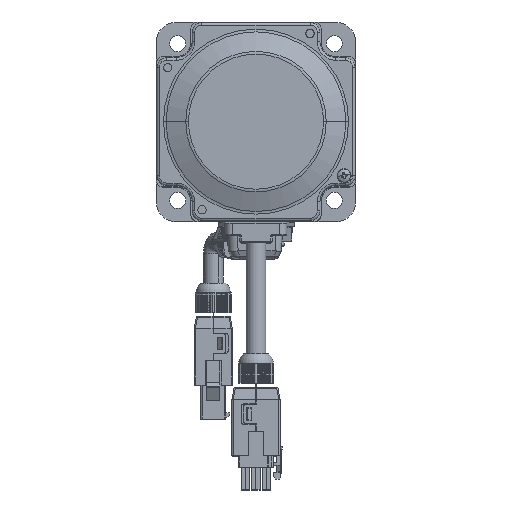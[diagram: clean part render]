
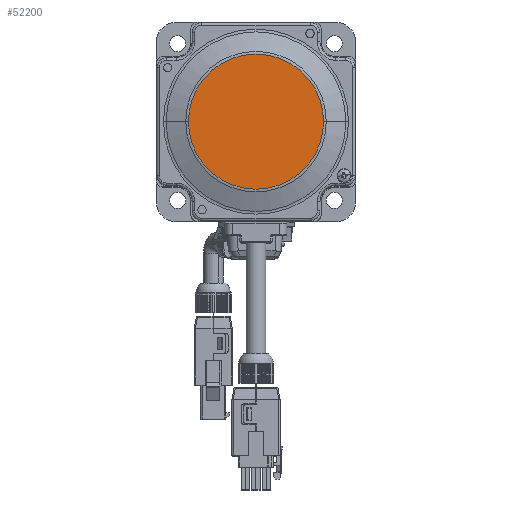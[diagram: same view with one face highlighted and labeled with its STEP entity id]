
A CAD part, top view. The second image highlights one B-rep face of the part: STEP entity #52200.
In plain terms, the highlighted planar face has unit normal (0, 0, 1).
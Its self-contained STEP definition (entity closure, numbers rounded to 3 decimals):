
#2223 = DIRECTION ( 'NONE',  ( -1., 0., 0. ) ) ;
#9227 = AXIS2_PLACEMENT_3D ( 'NONE', #34357, #25535, #2223 ) ;
#9760 = EDGE_CURVE ( 'NONE', #80863, #65206, #77076, .T. ) ;
#24146 = AXIS2_PLACEMENT_3D ( 'NONE', #70070, #37383, #45196 ) ;
#24227 = CIRCLE ( 'NONE', #24146, 27.437 ) ;
#25535 = DIRECTION ( 'NONE',  ( 0., 0., 1. ) ) ;
#28653 = AXIS2_PLACEMENT_3D ( 'NONE', #50375, #100469, #42109 ) ;
#29432 = EDGE_LOOP ( 'NONE', ( #72297, #36009 ) ) ;
#29448 = PLANE ( 'NONE',  #28653 ) ;
#34357 = CARTESIAN_POINT ( 'NONE',  ( 549.508, 40.5, 94.3 ) ) ;
#36009 = ORIENTED_EDGE ( 'NONE', *, *, #9760, .T. ) ;
#37383 = DIRECTION ( 'NONE',  ( 0., 0., 1. ) ) ;
#42109 = DIRECTION ( 'NONE',  ( -1., 0., 0. ) ) ;
#43843 = CARTESIAN_POINT ( 'NONE',  ( 522.071, 40.5, 94.3 ) ) ;
#45196 = DIRECTION ( 'NONE',  ( -1., 0., 0. ) ) ;
#50375 = CARTESIAN_POINT ( 'NONE',  ( 530.962, 40.5, 94.3 ) ) ;
#52200 = ADVANCED_FACE ( 'NONE', ( #96952 ), #29448, .F. ) ;
#65206 = VERTEX_POINT ( 'NONE', #43843 ) ;
#66399 = CARTESIAN_POINT ( 'NONE',  ( 576.946, 40.5, 94.3 ) ) ;
#70070 = CARTESIAN_POINT ( 'NONE',  ( 549.508, 40.5, 94.3 ) ) ;
#72297 = ORIENTED_EDGE ( 'NONE', *, *, #74385, .T. ) ;
#74385 = EDGE_CURVE ( 'NONE', #65206, #80863, #24227, .T. ) ;
#77076 = CIRCLE ( 'NONE', #9227, 27.437 ) ;
#80863 = VERTEX_POINT ( 'NONE', #66399 ) ;
#96952 = FACE_OUTER_BOUND ( 'NONE', #29432, .T. ) ;
#100469 = DIRECTION ( 'NONE',  ( 0., 0., -1. ) ) ;
